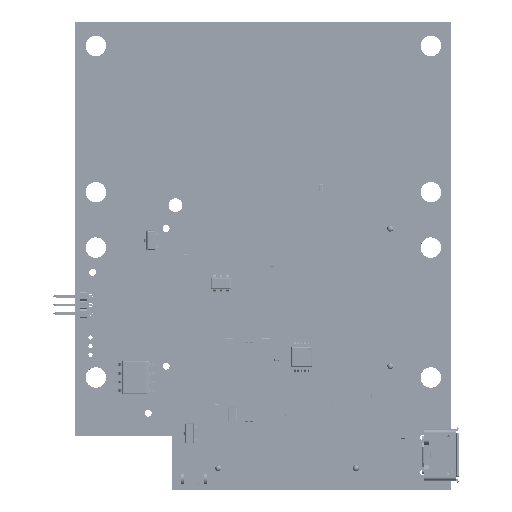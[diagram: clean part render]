
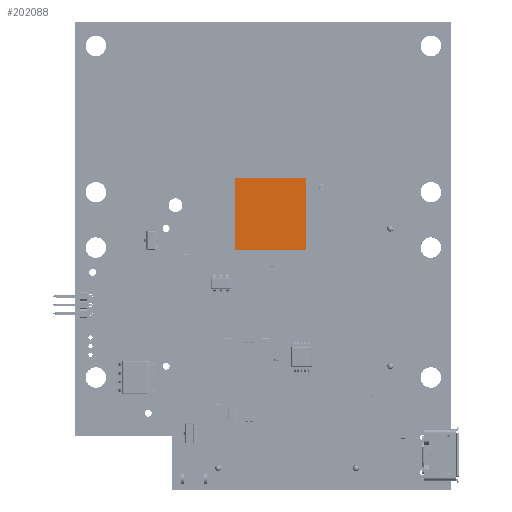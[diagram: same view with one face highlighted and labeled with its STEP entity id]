
A CAD part, top view. The second image highlights one B-rep face of the part: STEP entity #202088.
In plain terms, the highlighted planar face has unit normal (0, 0, 1) as drawn and (0, 1, 0) by its records, which use the part's own axes.
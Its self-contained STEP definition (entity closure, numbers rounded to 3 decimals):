
#201998 = VERTEX_POINT('',#201999);
#201999 = CARTESIAN_POINT('',(-5.2,0.15,-5.2));
#202005 = EDGE_CURVE('',#201998,#202006,#202008,.T.);
#202006 = VERTEX_POINT('',#202007);
#202007 = CARTESIAN_POINT('',(-5.2,0.15,5.2));
#202008 = LINE('',#202009,#202010);
#202009 = CARTESIAN_POINT('',(-5.2,0.15,-5.2));
#202010 = VECTOR('',#202011,1.);
#202011 = DIRECTION('',(0.,0.,1.));
#202029 = VERTEX_POINT('',#202030);
#202030 = CARTESIAN_POINT('',(5.2,0.15,-5.2));
#202036 = EDGE_CURVE('',#202029,#201998,#202037,.T.);
#202037 = LINE('',#202038,#202039);
#202038 = CARTESIAN_POINT('',(5.2,0.15,-5.2));
#202039 = VECTOR('',#202040,1.);
#202040 = DIRECTION('',(-1.,0.,0.));
#202053 = VERTEX_POINT('',#202054);
#202054 = CARTESIAN_POINT('',(5.2,0.15,5.2));
#202060 = EDGE_CURVE('',#202053,#202029,#202061,.T.);
#202061 = LINE('',#202062,#202063);
#202062 = CARTESIAN_POINT('',(5.2,0.15,5.2));
#202063 = VECTOR('',#202064,1.);
#202064 = DIRECTION('',(0.,0.,-1.));
#202077 = EDGE_CURVE('',#202006,#202053,#202078,.T.);
#202078 = LINE('',#202079,#202080);
#202079 = CARTESIAN_POINT('',(-5.2,0.15,5.2));
#202080 = VECTOR('',#202081,1.);
#202081 = DIRECTION('',(1.,0.,0.));
#202088 = ADVANCED_FACE('',(#202089),#202095,.T.);
#202089 = FACE_BOUND('',#202090,.F.);
#202090 = EDGE_LOOP('',(#202091,#202092,#202093,#202094));
#202091 = ORIENTED_EDGE('',*,*,#202005,.F.);
#202092 = ORIENTED_EDGE('',*,*,#202036,.F.);
#202093 = ORIENTED_EDGE('',*,*,#202060,.F.);
#202094 = ORIENTED_EDGE('',*,*,#202077,.F.);
#202095 = PLANE('',#202096);
#202096 = AXIS2_PLACEMENT_3D('',#202097,#202098,#202099);
#202097 = CARTESIAN_POINT('',(0.,0.15,0.));
#202098 = DIRECTION('',(0.,1.,0.));
#202099 = DIRECTION('',(1.,0.,0.));
